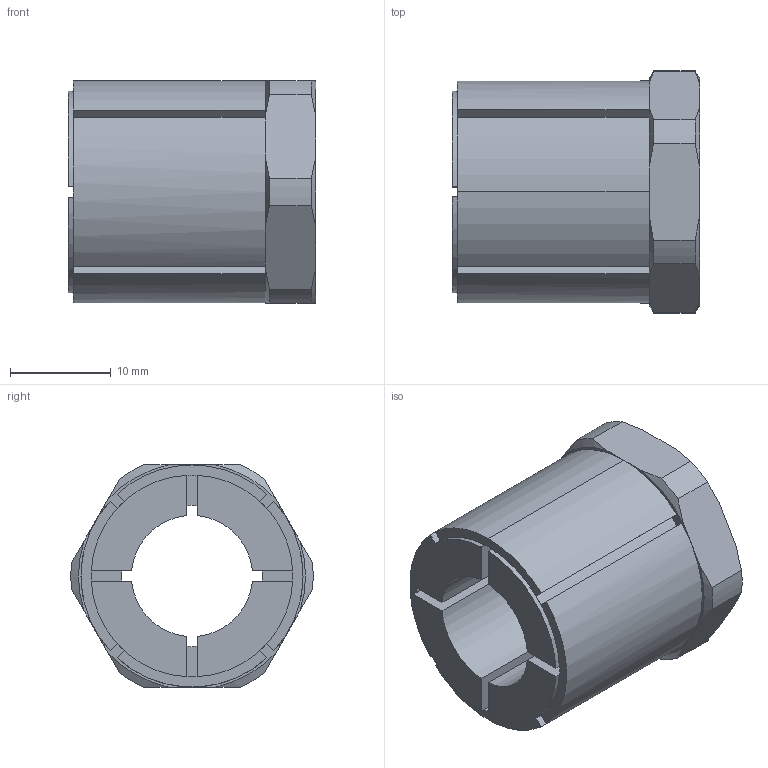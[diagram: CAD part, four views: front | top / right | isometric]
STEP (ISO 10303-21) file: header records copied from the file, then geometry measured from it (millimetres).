
FILE_DESCRIPTION (( 'STEP AP203' ), '1' );
FILE_NAME ('KBS 58 - 12 x 22.STEP', '2015-07-05T19:50:09', ( '' ), ( '' ), 'SwSTEP 2.0', 'SolidWorks 2010', '' );
FILE_SCHEMA (( 'CONFIG_CONTROL_DESIGN' ));
Length unit declared in the file: millimetre
Products named in the file (1): KBS 58 - 12 x 22
Bounding box: 24.5 x 23.98 x 22 mm (x, y, z)
Volume: 6188.5 mm3; surface area: 4133.4 mm2
Topology: 1 solids, 1 shells, 84 faces, 231 edges, 149 vertices
Faces by surface type: plane 42, cylinder 26, cone 16
Entity records: 2833 total; most frequent: CARTESIAN_POINT 601, ORIENTED_EDGE 462, DIRECTION 454, EDGE_CURVE 231, AXIS2_PLACEMENT_3D 170, VERTEX_POINT 149, VECTOR 114, LINE 114
